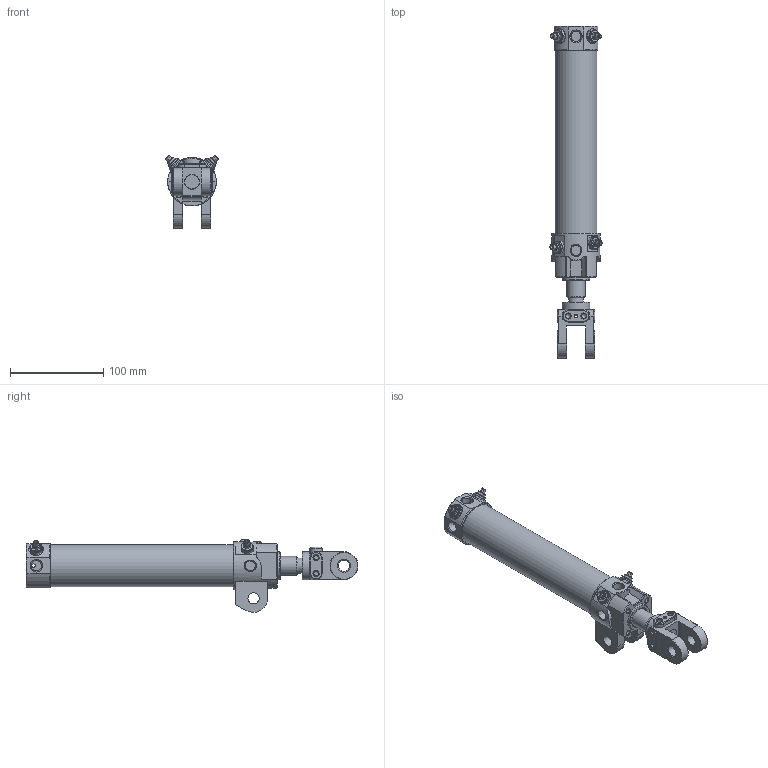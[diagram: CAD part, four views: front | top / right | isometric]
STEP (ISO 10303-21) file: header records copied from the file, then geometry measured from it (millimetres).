
FILE_DESCRIPTION((''),'2;1');
FILE_NAME('I:\3D電子目錄\氣缸\DCK\DCK\DCK-1B-40x150-Y.stp','2008-02-26T11:16:58',('Administrator'),(''),'Autodesk Inventor 11','Autodesk Inventor 11','');
FILE_SCHEMA(('AUTOMOTIVE_DESIGN { 1 0 10303 214 1 1 1 1 }'));
Length unit declared in the file: millimetre
Products named in the file (6): DCK-1B-40-Y; 緩衝針; 緩衝針-1; 緩衝針-201; 緩衝針-3
Assembly tree (8 placements, depth 3):
  DCK-1B-40-Y
    DCK-1B-40-Y
    緩衝針  x4
      緩衝針-1
      緩衝針-201
      緩衝針-3
Bounding box: 56.06 x 356 x 78.02 mm (x, y, z)
Volume: 247395.3 mm3; surface area: 119006.4 mm2
Topology: 15 solids, 15 shells, 729 faces, 1682 edges, 1040 vertices
Faces by surface type: plane 242, cylinder 217, cone 146, bspline 82, torus 40, sphere 2
Full cylindrical faces by diameter (mm): 2 x1, 3 x3, 3.8 x2, 4 x6, 4.6 x4, 5 x8, 5.1 x4, 5.2 x12, 5.5 x4, 7 x1, 7.25 x1, 7.9 x4, 8 x2, 8.3 x1, 10 x2, 12 x4, 12.8 x4, 16 x3, 20 x1, 21 x1, 22 x3, 23 x1, 24.7 x1, 26 x1, 28 x1, 29 x1, 30 x4, 33 x1, 40 x1, 42 x2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
Entity records: 25906 total; most frequent: CARTESIAN_POINT 15790, DIRECTION 1975, ORIENTED_EDGE 1956, EDGE_CURVE 978, AXIS2_PLACEMENT_3D 841, EDGE_LOOP 681, VERTEX_POINT 677, FACE_OUTER_BOUND 478
